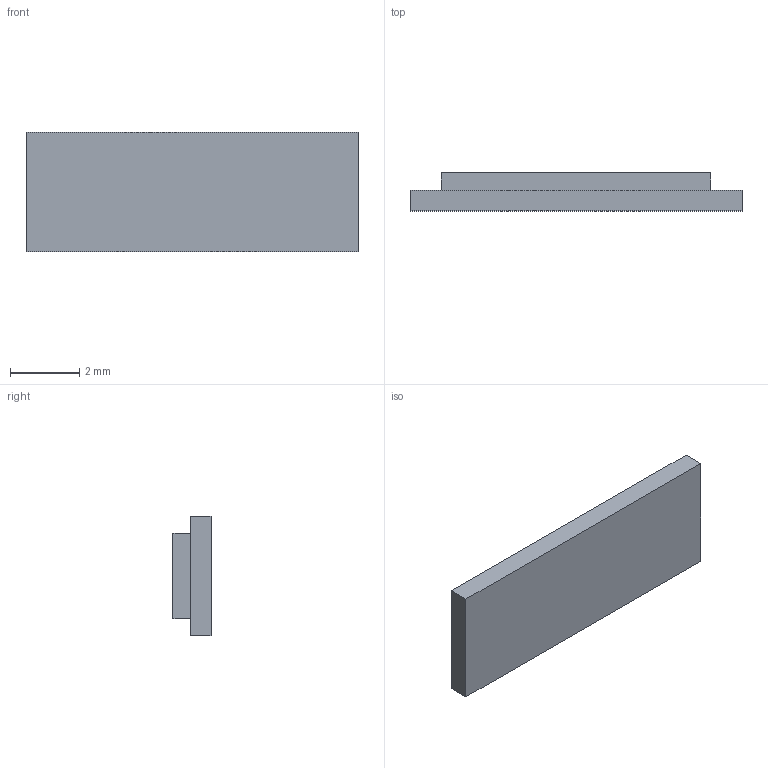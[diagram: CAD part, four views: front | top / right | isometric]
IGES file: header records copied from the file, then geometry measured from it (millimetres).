
Start section:  PTC IGES file: amp-2-353515_prt.igs
Global section: file name: amp-2-353515_prt.igs; native system: Pro/ENGINEER by Parametric Technology Corporation; preprocessor: 2000030; author: ECaille; organization: Unknown; date: 000803.091919; units: millimetre
Bounding box: 9.6 x 1.1 x 3.46 mm (x, y, z)
Surface area: 92.4 mm2 (no closed solid volume)
Topology: 0 solids, 0 shells, 11 faces, 76 edges, 104 vertices
Faces by surface type: bspline 11
